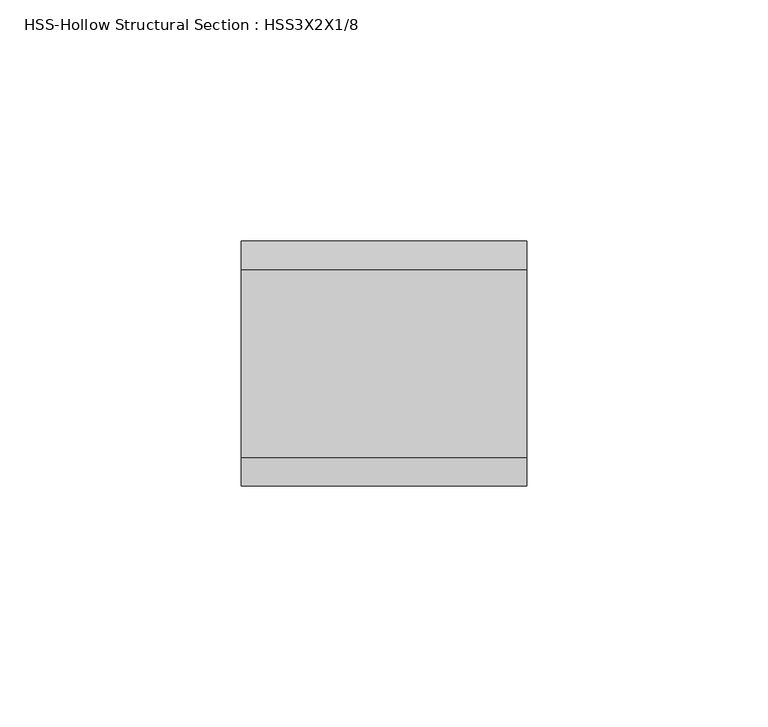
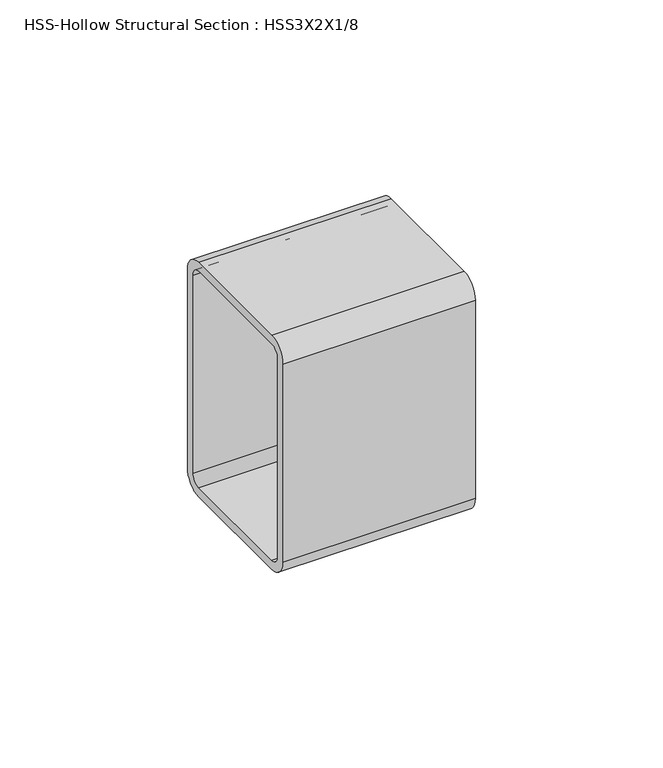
"""IFC4 building model written with IfcOpenShell, lengths in millimetres: beam geometry, HSS-Hollow Structural Section : HSS3X2X1/8."""

import ifcopenshell
import ifcopenshell.guid

model = None  # the IFC model being written
_history = None  # IfcOwnerHistory: only IFC2X3 demands one
_inside = {}  # id of a spatial element -> (the spatial element, [elements in it])
_under = {}  # id of a project, library or spatial element -> (it, [spatial elements below it])
_declared = {}  # id of a project -> (the project, [libraries it declares])
_typed = {}  # id of a type object -> (the type object, [elements of that type])
_made_of = {}  # id of a material, layer set ... -> (it, [elements and type objects made of it])


def new_model(schema):
    """Start an empty IFC model of exactly this schema.

    Asked for "IFC4X3", IfcOpenShell would pick the latest addendum, in which some entities
    have other attributes; the version numbers below select the first issue.
    IFC2X3 requires an IfcOwnerHistory on every rooted entity: one is made here for all.
    """
    global model, _history
    if schema == "IFC4X3":
        model = ifcopenshell.file(schema_version=(4, 3, 0, 0))
    else:
        model = ifcopenshell.file(schema=schema)
    _inside.clear()
    _under.clear()
    _declared.clear()
    _typed.clear()
    _made_of.clear()
    _history = None
    if model.schema == "IFC2X3":
        org = make("IfcOrganization", Name="unknown")
        user = make(
            "IfcPersonAndOrganization",
            ThePerson=make("IfcPerson", FamilyName="unknown"),
            TheOrganization=org,
        )
        app = make(
            "IfcApplication",
            ApplicationDeveloper=org,
            Version="unknown",
            ApplicationFullName="unknown",
            ApplicationIdentifier="unknown",
        )
        _history = make(
            "IfcOwnerHistory",
            OwningUser=user,
            OwningApplication=app,
            ChangeAction="ADDED",
            CreationDate=0,
        )
    return model


def make(cls, **values):
    """One entity of the class cls with the attributes given. An attribute that is None is left unset."""
    return model.create_entity(
        cls, **{name: value for name, value in values.items() if value is not None}
    )


def rooted(cls, **values):
    """An entity with a GlobalId (a new one), such as an element, a storey or a relation."""
    return make(cls, GlobalId=ifcopenshell.guid.new(), OwnerHistory=_history, **values)


def si_unit(unit_type, name, prefix=None):
    """IfcSIUnit, for example si_unit("LENGTHUNIT", "METRE", prefix="MILLI")."""
    return make("IfcSIUnit", UnitType=unit_type, Prefix=prefix, Name=name)


def assignment(units):
    """IfcUnitAssignment: the units of a project."""
    return None if units is None else make("IfcUnitAssignment", Units=units)


def point(xyz):
    """IfcCartesianPoint."""
    return None if xyz is None else make("IfcCartesianPoint", Coordinates=xyz)


def direction(xyz):
    """IfcDirection."""
    return None if xyz is None else make("IfcDirection", DirectionRatios=xyz)


def frame(location, z_axis=None, x_axis=None):
    """IfcAxis2Placement3D, a coordinate frame: its origin and axes. An axis left out is left unset."""
    return make(
        "IfcAxis2Placement3D",
        Location=point(location),
        Axis=direction(z_axis),
        RefDirection=direction(x_axis),
    )


def frame_2d(location, x_axis=None):
    """IfcAxis2Placement2D, a coordinate frame in the plane: its origin and x axis."""
    return make(
        "IfcAxis2Placement2D", Location=point(location), RefDirection=direction(x_axis)
    )


def origin():
    """The frame at (0, 0, 0) with its axes left unset."""
    return frame((0.0, 0.0, 0.0))


def place(relative_to, where):
    """IfcLocalPlacement: puts the frame where relative to a parent placement (None: the world)."""
    return make(
        "IfcLocalPlacement", PlacementRelTo=relative_to, RelativePlacement=where
    )


def context(
    kind, dimensions, precision=None, world=None, true_north=None, identifier=None
):
    """IfcGeometricRepresentationContext, for example the 3D "Model" context."""
    return make(
        "IfcGeometricRepresentationContext",
        ContextIdentifier=identifier,
        ContextType=kind,
        CoordinateSpaceDimension=dimensions,
        Precision=precision,
        WorldCoordinateSystem=world,
        TrueNorth=true_north,
    )


def project(units=None, contexts=None):
    """IfcProject with its units and contexts."""
    return rooted(
        "IfcProject",
        Name="project",
        RepresentationContexts=contexts,
        UnitsInContext=assignment(units),
    )


def spatial(cls, under=None, at=None, **own):
    """A site, building, storey or space (cls), placed at a placement, below another one or the project."""
    s = rooted(cls, ObjectPlacement=at, **own)
    if under is not None:
        _under.setdefault(under.id(), (under, []))[1].append(s)
    return s


def polyline(points):
    """IfcPolyline through the points."""
    return make("IfcPolyline", Points=[point(p) for p in points])


def circle_curve(where, radius):
    """IfcCircle in the frame where."""
    return make("IfcCircle", Position=where, Radius=radius)


def trimmed(basis, trim1, trim2, sense, master):
    """IfcTrimmedCurve: the piece of a basis curve between two trims."""
    return make(
        "IfcTrimmedCurve",
        BasisCurve=basis,
        Trim1=trim1,
        Trim2=trim2,
        SenseAgreement=sense,
        MasterRepresentation=master,
    )


def segment(curve, same_sense, transition):
    """IfcCompositeCurveSegment."""
    return make(
        "IfcCompositeCurveSegment",
        Transition=transition,
        SameSense=same_sense,
        ParentCurve=curve,
    )


def composite_curve(segments, self_intersect=None):
    """IfcCompositeCurve: segments joined end to end."""
    return make("IfcCompositeCurve", Segments=segments, SelfIntersect=self_intersect)


def outline(outer, holes=None, kind="AREA"):
    """IfcArbitraryClosedProfileDef: a profile drawn as a closed curve; with holes, ...WithVoids."""
    if holes is None:
        return make("IfcArbitraryClosedProfileDef", ProfileType=kind, OuterCurve=outer)
    return make(
        "IfcArbitraryProfileDefWithVoids",
        ProfileType=kind,
        OuterCurve=outer,
        InnerCurves=holes,
    )


def extrude(swept, where, along, depth):
    """IfcExtrudedAreaSolid: the profile swept, set in the frame where, extruded along a direction by depth."""
    return make(
        "IfcExtrudedAreaSolid",
        SweptArea=swept,
        Position=where,
        ExtrudedDirection=direction(along),
        Depth=depth,
    )


def shape(context_of_items, identifier, shape_type, items):
    """IfcShapeRepresentation: the items that make up one representation, for example the "Body"."""
    return make(
        "IfcShapeRepresentation",
        ContextOfItems=context_of_items,
        RepresentationIdentifier=identifier,
        RepresentationType=shape_type,
        Items=items,
    )


def source(mapping_origin, context_of_items, identifier, shape_type, items):
    """IfcRepresentationMap: a shape defined once, which mapped items show again and again."""
    return make(
        "IfcRepresentationMap",
        MappingOrigin=mapping_origin,
        MappedRepresentation=shape(context_of_items, identifier, shape_type, items),
    )


def transform(
    local_origin,
    x_axis=None,
    y_axis=None,
    z_axis=None,
    scale=None,
    scale2=None,
    scale3=None,
    uniform=True,
):
    """IfcCartesianTransformationOperator3D, or its non-uniform kind. x_axis, y_axis, z_axis: its Axis1, 2, 3."""
    if uniform:
        return make(
            "IfcCartesianTransformationOperator3D",
            Axis1=direction(x_axis),
            Axis2=direction(y_axis),
            LocalOrigin=point(local_origin),
            Scale=scale,
            Axis3=direction(z_axis),
        )
    return make(
        "IfcCartesianTransformationOperator3DnonUniform",
        Axis1=direction(x_axis),
        Axis2=direction(y_axis),
        LocalOrigin=point(local_origin),
        Scale=scale,
        Axis3=direction(z_axis),
        Scale2=scale2,
        Scale3=scale3,
    )


def mapped(mapping_source, mapping_target):
    """IfcMappedItem: shows the shape of a source again, moved by a transform."""
    return make(
        "IfcMappedItem", MappingSource=mapping_source, MappingTarget=mapping_target
    )


def made_of(thing, what):
    """Note that an element or type object is made of a material, layer set ...; save() writes the relation."""
    if what is not None:
        _made_of.setdefault(what.id(), (what, []))[1].append(thing)
    return thing


def element(
    cls,
    number,
    at=None,
    inside=None,
    cuts=None,
    type_object=None,
    material=None,
    context=None,
    identifier="Body",
    shape_type=None,
    held_by="IfcProductDefinitionShape",
    body=None,
    shapes=None,
    **own,
):
    """One element of the class cls, such as IfcWall. Its Tag is "e" and its number.

    at: its placement. inside: the storey or other place that contains it. cuts: it is an
    opening in that element (IfcRelVoidsElement). A single representation is given by context,
    identifier, shape_type and body (its items); several are given by shapes. held_by: the class
    of the entity that holds the representations. save() writes the other relations.
    """
    e = rooted(cls, Tag="e%d" % number, ObjectPlacement=at, **own)
    if body is not None:
        shapes = [shape(context, identifier, shape_type, body)]
    if shapes is not None:
        e.Representation = make(held_by, Representations=shapes)
    if inside is not None:
        _inside.setdefault(inside.id(), (inside, []))[1].append(e)
    if cuts is not None:
        rooted(
            "IfcRelVoidsElement", RelatingBuildingElement=cuts, RelatedOpeningElement=e
        )
    if type_object is not None:
        _typed.setdefault(type_object.id(), (type_object, []))[1].append(e)
    return made_of(e, material)


def aggregate(whole, parts):
    """IfcRelAggregates: a whole, such as a stair, and the parts it consists of."""
    return rooted("IfcRelAggregates", RelatingObject=whole, RelatedObjects=parts)


def save(model, path):
    """Write the relations noted so far, then the file.

    IfcRelAggregates (storeys below a building ...), IfcRelContainedInSpatialStructure (elements
    in a storey), IfcRelDefinesByType, IfcRelAssociatesMaterial and IfcRelDeclares: one each for
    every whole, place, type object, material and project.
    """
    for whole, parts in _under.values():
        aggregate(whole, parts)
    for where, things in _inside.values():
        rooted(
            "IfcRelContainedInSpatialStructure",
            RelatedElements=things,
            RelatingStructure=where,
        )
    for kind, things in _typed.values():
        rooted("IfcRelDefinesByType", RelatedObjects=things, RelatingType=kind)
    for what, things in _made_of.values():
        rooted("IfcRelAssociatesMaterial", RelatedObjects=things, RelatingMaterial=what)
    for by, libraries in _declared.values():
        rooted("IfcRelDeclares", RelatingContext=by, RelatedDefinitions=libraries)
    model.write(path)


def hss_hollow_structural_section_hss3x2x1_8_c5a4428d(model_context):
    return source(origin(), model_context, "Body", "SweptSolid", [
        extrude(outline(composite_curve([segment(polyline([(25.4, 32.2072), (25.4, -32.2072)]), True, "CONTINUOUS"), segment(trimmed(circle_curve(frame_2d((19.5072, -32.2072)), 5.8928), [point((25.4, -32.2072))], [point((19.5072, -38.1))], False, "CARTESIAN"), True, "CONTINUOUS"), segment(polyline([(19.5072, -38.1), (-19.5072, -38.1)]), True, "CONTINUOUS"), segment(trimmed(circle_curve(frame_2d((-19.5072, -32.2072)), 5.8928), [point((-19.5072, -38.1))], [point((-25.4, -32.2072))], False, "CARTESIAN"), True, "CONTINUOUS"), segment(polyline([(-25.4, -32.2072), (-25.4, 32.2072)]), True, "CONTINUOUS"), segment(trimmed(circle_curve(frame_2d((-19.5072, 32.2072)), 5.8928), [point((-25.4, 32.2072))], [point((-19.5072, 38.1))], False, "CARTESIAN"), True, "CONTINUOUS"), segment(polyline([(-19.5072, 38.1), (19.5072, 38.1)]), True, "CONTINUOUS"), segment(trimmed(circle_curve(frame_2d((19.5072, 32.2072)), 5.8928), [point((19.5072, 38.1))], [point((25.4, 32.2072))], False, "CARTESIAN"), True, "CONTINUOUS")], self_intersect=False), holes=[composite_curve([segment(trimmed(circle_curve(frame_2d((-19.5072, 32.2072)), 2.9464), [point((-19.5072, 35.1536))], [point((-22.4536, 32.2072))], True, "CARTESIAN"), True, "CONTINUOUS"), segment(polyline([(-22.4536, 32.2072), (-22.4536, -32.2072)]), True, "CONTINUOUS"), segment(trimmed(circle_curve(frame_2d((-19.5072, -32.2072)), 2.9464), [point((-22.4536, -32.2072))], [point((-19.5072, -35.1536))], True, "CARTESIAN"), True, "CONTINUOUS"), segment(polyline([(-19.5072, -35.1536), (19.5072, -35.1536)]), True, "CONTINUOUS"), segment(trimmed(circle_curve(frame_2d((19.5072, -32.2072)), 2.9464), [point((19.5072, -35.1536))], [point((22.4536, -32.2072))], True, "CARTESIAN"), True, "CONTINUOUS"), segment(polyline([(22.4536, -32.2072), (22.4536, 32.2072)]), True, "CONTINUOUS"), segment(trimmed(circle_curve(frame_2d((19.5072, 32.2072)), 2.9464), [point((22.4536, 32.2072))], [point((19.5072, 35.1536))], True, "CARTESIAN"), True, "CONTINUOUS"), segment(polyline([(19.5072, 35.1536), (-19.5072, 35.1536)]), True, "CONTINUOUS")], self_intersect=False)]), frame((27.4704277, 0.0, 0.0), z_axis=(1.0, 0.0, 0.0), x_axis=(0.0, 1.0, 0.0)), (0.0, 0.0, 1.0), 59.2565905),
    ])


if __name__ == "__main__":
    model = new_model("IFC4")
    model_context = context("Model", 3, world=origin())
    ifc_project = project(units=[si_unit("LENGTHUNIT", "METRE", prefix="MILLI")], contexts=[model_context])
    site = spatial("IfcSite", under=ifc_project)
    building = spatial("IfcBuilding", under=site)
    placement = place(None, origin())
    hss_hollow_structural_section_hss3x2x1_8_shape = hss_hollow_structural_section_hss3x2x1_8_c5a4428d(model_context)
    element("IfcBeam", 1, ObjectType="HSS-Hollow Structural Section : HSS3X2X1/8", at=placement, inside=building, context=model_context, shape_type="MappedRepresentation", body=[
        mapped(hss_hollow_structural_section_hss3x2x1_8_shape, transform((0.0, 0.0, 0.0), x_axis=(1.0, 0.0, 0.0), y_axis=(0.0, 1.0, 0.0), z_axis=(0.0, 0.0, 1.0))),
    ])
    save(model, "model.ifc")
